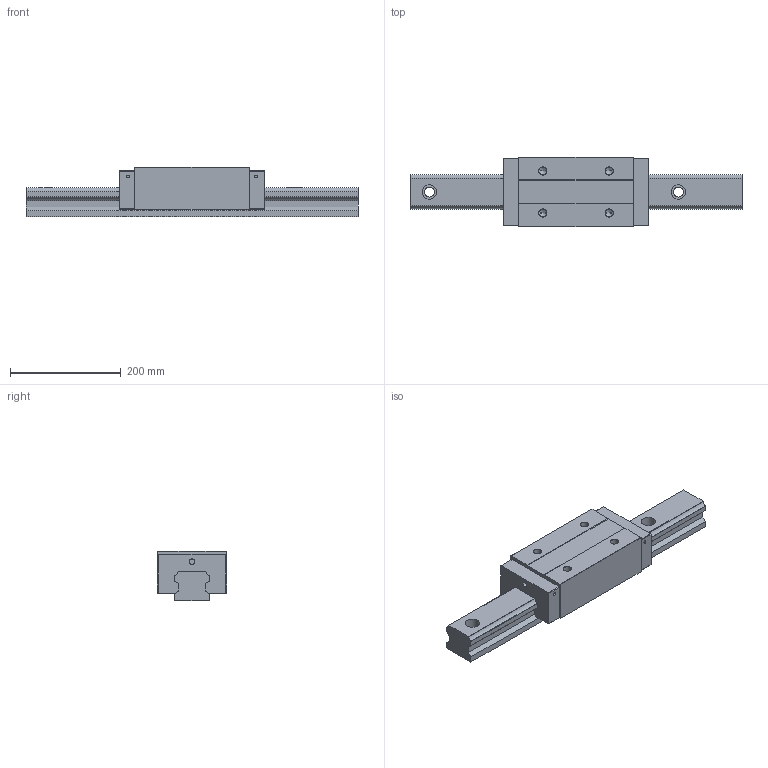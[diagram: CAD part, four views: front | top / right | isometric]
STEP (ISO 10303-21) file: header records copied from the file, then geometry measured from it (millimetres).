
FILE_DESCRIPTION (( 'STEP AP203' ), '1' );
FILE_NAME ('TRH65VE-SU.STEP', '2024-06-26T06:06:01', ( '' ), ( '' ), 'SwSTEP 2.0', 'SolidWorks 2022', '' );
FILE_SCHEMA (( 'CONFIG_CONTROL_DESIGN' ));
Length unit declared in the file: millimetre
Products named in the file (1): TRH65VE-SU
Bounding box: 600 x 126 x 90 mm (x, y, z)
Volume: 3567243.4 mm3; surface area: 309048.3 mm2
Topology: 2 solids, 2 shells, 170 faces, 448 edges, 288 vertices
Faces by surface type: plane 82, cylinder 72, cone 16
Entity records: 5299 total; most frequent: DIRECTION 934, CARTESIAN_POINT 899, ORIENTED_EDGE 880, EDGE_CURVE 440, AXIS2_PLACEMENT_3D 323, LINE 288, VERTEX_POINT 288, VECTOR 288
